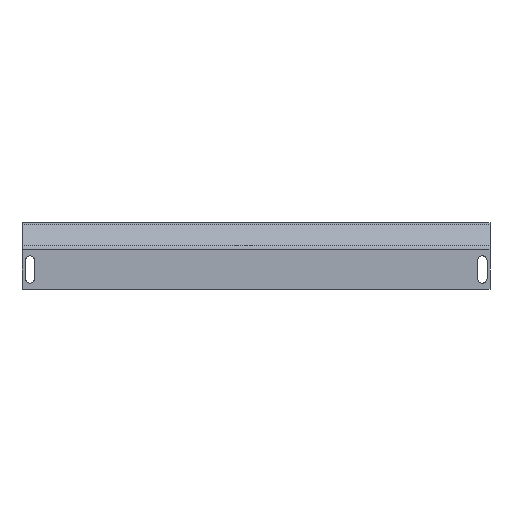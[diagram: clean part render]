
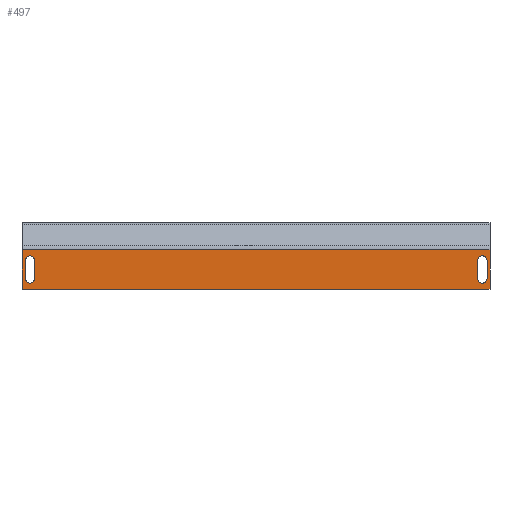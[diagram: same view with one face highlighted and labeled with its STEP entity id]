
A CAD part, top view. The second image highlights one B-rep face of the part: STEP entity #497.
In plain terms, the highlighted planar face has unit normal (0, 0, 1).
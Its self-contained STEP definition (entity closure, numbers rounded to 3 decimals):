
#45 = VECTOR ( 'NONE', #2337, 1000. ) ;
#74 = CARTESIAN_POINT ( 'NONE',  ( -10.5, 415., 2.5 ) ) ;
#103 = ORIENTED_EDGE ( 'NONE', *, *, #332, .F. ) ;
#105 = ORIENTED_EDGE ( 'NONE', *, *, #1320, .F. ) ;
#126 = CIRCLE ( 'NONE', #727, 5.75 ) ;
#137 = EDGE_LOOP ( 'NONE', ( #105, #1061, #199, #1144 ) ) ;
#199 = ORIENTED_EDGE ( 'NONE', *, *, #714, .F. ) ;
#214 = CARTESIAN_POINT ( 'NONE',  ( -0.5, 428.2, 2.5 ) ) ;
#223 = CARTESIAN_POINT ( 'NONE',  ( -6.25, 451.2, 2.5 ) ) ;
#262 = DIRECTION ( 'NONE',  ( 0., 1., 0. ) ) ;
#268 = EDGE_LOOP ( 'NONE', ( #103, #413, #1216, #1444 ) ) ;
#301 = CARTESIAN_POINT ( 'NONE',  ( -6.25, 428.2, 2.5 ) ) ;
#332 = EDGE_CURVE ( 'NONE', #1281, #2324, #1859, .T. ) ;
#392 = CARTESIAN_POINT ( 'NONE',  ( -10.5, 464.393, 2.5 ) ) ;
#413 = ORIENTED_EDGE ( 'NONE', *, *, #2028, .F. ) ;
#420 = CARTESIAN_POINT ( 'NONE',  ( 576., 415., 2.5 ) ) ;
#435 = EDGE_CURVE ( 'NONE', #1298, #1326, #1235, .T. ) ;
#461 = VERTEX_POINT ( 'NONE', #420 ) ;
#466 = CARTESIAN_POINT ( 'NONE',  ( 5.25, 451.2, 2.5 ) ) ;
#473 = CIRCLE ( 'NONE', #2010, 5.75 ) ;
#479 = AXIS2_PLACEMENT_3D ( 'NONE', #1986, #1068, #1255 ) ;
#480 = EDGE_CURVE ( 'NONE', #1345, #571, #1854, .T. ) ;
#497 = ADVANCED_FACE ( 'NONE', ( #794, #1509, #938 ), #783, .F. ) ;
#498 = CARTESIAN_POINT ( 'NONE',  ( -0.5, 451.2, 2.5 ) ) ;
#524 = LINE ( 'NONE', #1798, #1626 ) ;
#530 = CARTESIAN_POINT ( 'NONE',  ( 576., 464.393, 2.5 ) ) ;
#571 = VERTEX_POINT ( 'NONE', #301 ) ;
#607 = DIRECTION ( 'NONE',  ( -1., 0., 0. ) ) ;
#615 = VERTEX_POINT ( 'NONE', #2253 ) ;
#682 = LINE ( 'NONE', #1960, #883 ) ;
#683 = EDGE_CURVE ( 'NONE', #932, #615, #126, .T. ) ;
#704 = CARTESIAN_POINT ( 'NONE',  ( 576., 415., 2.5 ) ) ;
#714 = EDGE_CURVE ( 'NONE', #2232, #1345, #473, .T. ) ;
#726 = CARTESIAN_POINT ( 'NONE',  ( 560.75, 451.2, 2.5 ) ) ;
#727 = AXIS2_PLACEMENT_3D ( 'NONE', #1880, #1373, #983 ) ;
#783 = PLANE ( 'NONE',  #890 ) ;
#792 = CARTESIAN_POINT ( 'NONE',  ( 5.25, 428.2, 2.5 ) ) ;
#794 = FACE_BOUND ( 'NONE', #137, .T. ) ;
#883 = VECTOR ( 'NONE', #1403, 1000. ) ;
#890 = AXIS2_PLACEMENT_3D ( 'NONE', #2023, #1140, #607 ) ;
#909 = LINE ( 'NONE', #726, #1776 ) ;
#932 = VERTEX_POINT ( 'NONE', #1152 ) ;
#934 = DIRECTION ( 'NONE',  ( 0., 0., 1. ) ) ;
#938 = FACE_OUTER_BOUND ( 'NONE', #1090, .T. ) ;
#943 = CARTESIAN_POINT ( 'NONE',  ( 572.25, 451.2, 2.5 ) ) ;
#977 = EDGE_CURVE ( 'NONE', #1678, #2232, #981, .T. ) ;
#981 = LINE ( 'NONE', #792, #1591 ) ;
#983 = DIRECTION ( 'NONE',  ( 1., 0., 0. ) ) ;
#1025 = DIRECTION ( 'NONE',  ( -1., 0., 0. ) ) ;
#1037 = ORIENTED_EDGE ( 'NONE', *, *, #2061, .T. ) ;
#1060 = LINE ( 'NONE', #704, #45 ) ;
#1061 = ORIENTED_EDGE ( 'NONE', *, *, #480, .F. ) ;
#1068 = DIRECTION ( 'NONE',  ( 0., 0., 1. ) ) ;
#1090 = EDGE_LOOP ( 'NONE', ( #1929, #1772, #1037, #1627 ) ) ;
#1140 = DIRECTION ( 'NONE',  ( 0., 0., -1. ) ) ;
#1144 = ORIENTED_EDGE ( 'NONE', *, *, #977, .F. ) ;
#1151 = AXIS2_PLACEMENT_3D ( 'NONE', #214, #934, #1274 ) ;
#1152 = CARTESIAN_POINT ( 'NONE',  ( 560.75, 428.2, 2.5 ) ) ;
#1216 = ORIENTED_EDGE ( 'NONE', *, *, #683, .F. ) ;
#1230 = CARTESIAN_POINT ( 'NONE',  ( 576., 464.393, 2.5 ) ) ;
#1235 = LINE ( 'NONE', #74, #1486 ) ;
#1244 = DIRECTION ( 'NONE',  ( 0., 1., 0. ) ) ;
#1255 = DIRECTION ( 'NONE',  ( 1., 0., 0. ) ) ;
#1274 = DIRECTION ( 'NONE',  ( 1., 0., 0. ) ) ;
#1281 = VERTEX_POINT ( 'NONE', #943 ) ;
#1287 = DIRECTION ( 'NONE',  ( 0., -1., 0. ) ) ;
#1292 = VECTOR ( 'NONE', #1287, 1000. ) ;
#1298 = VERTEX_POINT ( 'NONE', #392 ) ;
#1320 = EDGE_CURVE ( 'NONE', #571, #1678, #1521, .T. ) ;
#1326 = VERTEX_POINT ( 'NONE', #1622 ) ;
#1345 = VERTEX_POINT ( 'NONE', #223 ) ;
#1373 = DIRECTION ( 'NONE',  ( 0., 0., 1. ) ) ;
#1402 = DIRECTION ( 'NONE',  ( 0., 0., 1. ) ) ;
#1403 = DIRECTION ( 'NONE',  ( 1., 0., 0. ) ) ;
#1439 = VECTOR ( 'NONE', #1025, 1000. ) ;
#1444 = ORIENTED_EDGE ( 'NONE', *, *, #1680, .F. ) ;
#1464 = CARTESIAN_POINT ( 'NONE',  ( -6.25, 428.2, 2.5 ) ) ;
#1486 = VECTOR ( 'NONE', #2033, 1000. ) ;
#1509 = FACE_BOUND ( 'NONE', #268, .T. ) ;
#1521 = CIRCLE ( 'NONE', #1151, 5.75 ) ;
#1535 = EDGE_CURVE ( 'NONE', #461, #1629, #1060, .T. ) ;
#1591 = VECTOR ( 'NONE', #262, 1000. ) ;
#1603 = EDGE_CURVE ( 'NONE', #1629, #1298, #1610, .T. ) ;
#1610 = LINE ( 'NONE', #530, #1439 ) ;
#1622 = CARTESIAN_POINT ( 'NONE',  ( -10.5, 415., 2.5 ) ) ;
#1626 = VECTOR ( 'NONE', #1244, 1000. ) ;
#1627 = ORIENTED_EDGE ( 'NONE', *, *, #1535, .T. ) ;
#1629 = VERTEX_POINT ( 'NONE', #1230 ) ;
#1678 = VERTEX_POINT ( 'NONE', #2174 ) ;
#1680 = EDGE_CURVE ( 'NONE', #2324, #932, #909, .T. ) ;
#1731 = CARTESIAN_POINT ( 'NONE',  ( 560.75, 451.2, 2.5 ) ) ;
#1772 = ORIENTED_EDGE ( 'NONE', *, *, #435, .T. ) ;
#1776 = VECTOR ( 'NONE', #2001, 1000. ) ;
#1798 = CARTESIAN_POINT ( 'NONE',  ( 572.25, 451.2, 2.5 ) ) ;
#1854 = LINE ( 'NONE', #1464, #1292 ) ;
#1859 = CIRCLE ( 'NONE', #479, 5.75 ) ;
#1880 = CARTESIAN_POINT ( 'NONE',  ( 566.5, 428.2, 2.5 ) ) ;
#1929 = ORIENTED_EDGE ( 'NONE', *, *, #1603, .T. ) ;
#1960 = CARTESIAN_POINT ( 'NONE',  ( -10.5, 415., 2.5 ) ) ;
#1983 = DIRECTION ( 'NONE',  ( 1., 0., 0. ) ) ;
#1986 = CARTESIAN_POINT ( 'NONE',  ( 566.5, 451.2, 2.5 ) ) ;
#2001 = DIRECTION ( 'NONE',  ( 0., -1., 0. ) ) ;
#2010 = AXIS2_PLACEMENT_3D ( 'NONE', #498, #1402, #1983 ) ;
#2023 = CARTESIAN_POINT ( 'NONE',  ( 0., 0., 2.5 ) ) ;
#2028 = EDGE_CURVE ( 'NONE', #615, #1281, #524, .T. ) ;
#2033 = DIRECTION ( 'NONE',  ( 0., -1., 0. ) ) ;
#2061 = EDGE_CURVE ( 'NONE', #1326, #461, #682, .T. ) ;
#2174 = CARTESIAN_POINT ( 'NONE',  ( 5.25, 428.2, 2.5 ) ) ;
#2232 = VERTEX_POINT ( 'NONE', #466 ) ;
#2253 = CARTESIAN_POINT ( 'NONE',  ( 572.25, 428.2, 2.5 ) ) ;
#2324 = VERTEX_POINT ( 'NONE', #1731 ) ;
#2337 = DIRECTION ( 'NONE',  ( 0., 1., 0. ) ) ;
